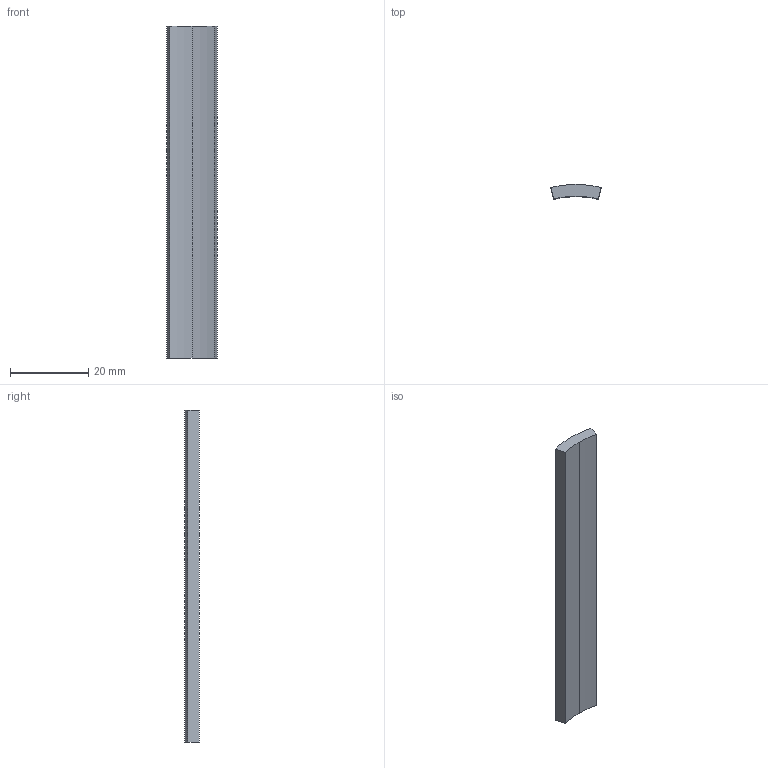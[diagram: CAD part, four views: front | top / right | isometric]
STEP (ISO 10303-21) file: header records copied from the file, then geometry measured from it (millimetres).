
FILE_DESCRIPTION(('FreeCAD Model'),'2;1');
FILE_NAME('Open CASCADE Shape Model','2026-11-05T18:53:51',('FreeCAD'),( 'FreeCAD'),'Open CASCADE STEP processor 7.8','FreeCAD','Unknown');
FILE_SCHEMA(('AUTOMOTIVE_DESIGN { 1 0 10303 214 1 1 1 1 }'));
Length unit declared in the file: millimetre
Products named in the file (1): Open CASCADE STEP translator 7.8 4
Bounding box: 12.93 x 3.72 x 85 mm (x, y, z)
Volume: 3140.3 mm3; surface area: 2677.4 mm2
Topology: 1 solids, 1 shells, 8 faces, 18 edges, 12 vertices
Faces by surface type: plane 4, cylinder 4
Entity records: 240 total; most frequent: DIRECTION 44, CARTESIAN_POINT 39, ORIENTED_EDGE 36, EDGE_CURVE 18, AXIS2_PLACEMENT_3D 17, VERTEX_POINT 12, LINE 10, VECTOR 10
